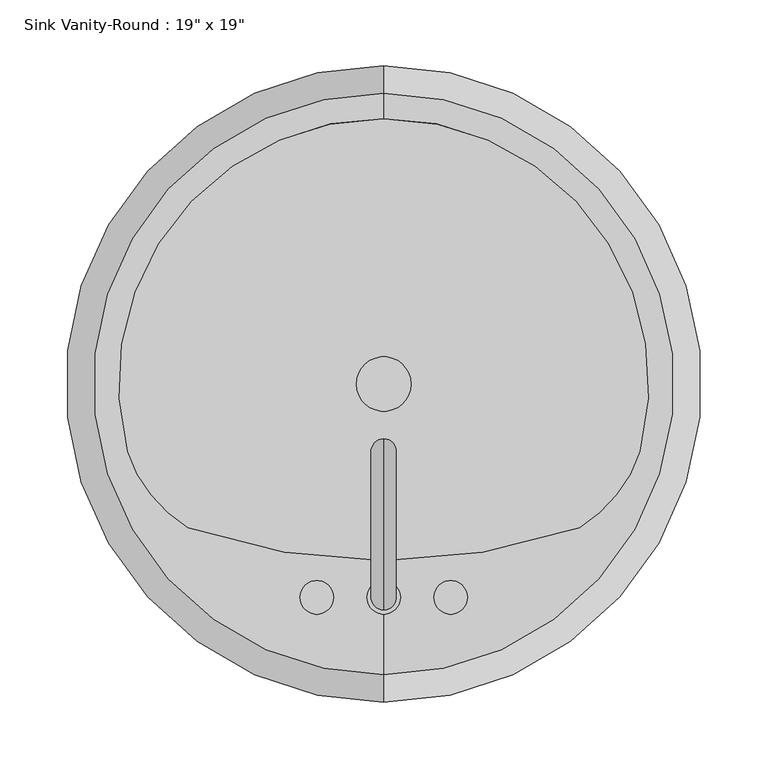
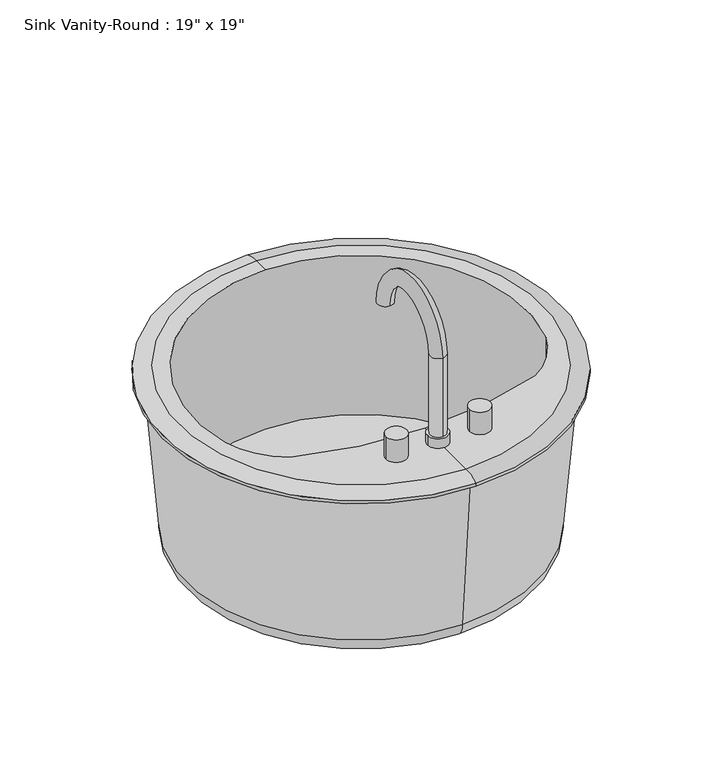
"""IFC4 building model written with IfcOpenShell, lengths in millimetres: flow terminal geometry."""

from ifc_helpers import new_model, si_unit, point, frame, frame_2d, origin, place, context, project, spatial, polyline, circle_curve, ellipse_curve, trimmed, segment, composite_curve, outline, extrude, source, transform, mapped, element, save
from ifc_brep_helpers import plane_surface, cylinder_surface, revolved_surface, advanced_brep


def flow_terminal_6ae34ecf(model_context):
    return source(origin(), model_context, "Body", "SolidModel", [
        advanced_brep(
        [(96.6517406, -237.5677185, 796.925), (96.6517406, -256.6177185, 796.925), (96.6517406, -256.6177185, 909.6375), (96.6517406, -237.5677185, 909.6375), (96.6517406, -145.7775038, 909.6375), (96.6517406, -126.7275038, 909.6375)],
        [
            (0, 1, circle_curve(frame((96.6517406, -247.0927185, 796.925), z_axis=(0.0, 0.0, -1.0), x_axis=(0.0, -1.0, 0.0)), 9.525)),
            (1, 0, circle_curve(frame((96.6517406, -247.0927185, 796.925), z_axis=(0.0, 0.0, -1.0), x_axis=(0.0, -1.0, 0.0)), 9.525)),
            (1, 2),
            (2, 3, circle_curve(frame((96.6517406, -247.0927185, 909.6375), z_axis=(0.0, 0.0, -1.0), x_axis=(0.0, -1.0, 0.0)), 9.525)),
            (3, 0),
            (3, 2, circle_curve(frame((96.6517406, -247.0927185, 909.6375), z_axis=(0.0, 0.0, -1.0), x_axis=(0.0, -1.0, 0.0)), 9.525)),
            (4, 5, circle_curve(frame((96.6517406, -136.2525038, 909.6375), z_axis=(0.0, 0.0, -1.0), x_axis=(0.0, 1.0, 0.0)), 9.525)),
            (5, 4, circle_curve(frame((96.6517406, -136.2525038, 909.6375), z_axis=(0.0, 0.0, -1.0), x_axis=(0.0, 1.0, 0.0)), 9.525)),
            (4, 3, circle_curve(frame((96.6517406, -191.6726112, 909.6375), z_axis=(1.0, 0.0, 0.0), x_axis=(0.0, -1.0, 0.0)), 45.8951073)),
            (2, 5, circle_curve(frame((96.6517406, -191.6726112, 909.6375), z_axis=(-1.0, 0.0, 0.0), x_axis=(0.0, -1.0, 0.0)), 64.9451073)),
        ],
        [
            plane_surface(frame((96.6517406, -237.5677185, 796.925), z_axis=(0.0, 0.0, -1.0), x_axis=(1.0, 0.0, 0.0))),
            cylinder_surface(frame((96.6517406, -247.0927185, 796.925), z_axis=(0.0, 0.0, -1.0), x_axis=(0.0, -1.0, 0.0)), 9.525),
            plane_surface(frame((96.6517406, -191.6726112, 909.6375), z_axis=(0.0, 0.0, -1.0), x_axis=(0.0, 1.0, 0.0))),
            revolved_surface(trimmed(ellipse_curve(frame((96.6517406, -247.0927185, 909.6375), z_axis=(0.0, 0.0, 1.0), x_axis=(0.0, -1.0, 0.0)), 9.525, 9.525), [point((96.6517406, -237.5677185, 909.6375))], [point((96.6517406, -256.6177185, 909.6375))], True, "CARTESIAN"), (96.6517406, -191.6726112, 909.6375), (1.0, 0.0, 0.0)),
            revolved_surface(trimmed(ellipse_curve(frame((96.6517406, -247.0927185, 909.6375), z_axis=(0.0, 0.0, 1.0), x_axis=(0.0, -1.0, 0.0)), 9.525, 9.525), [point((96.6517406, -256.6177185, 909.6375))], [point((96.6517406, -237.5677185, 909.6375))], True, "CARTESIAN"), (96.6517406, -191.6726112, 909.6375), (1.0, 0.0, 0.0)),
        ],
        [
            (0, [[1, 2]]),
            (1, [[3, 4, 5, -2]]),
            (1, [[-5, 6, -3, -1]]),
            (2, [[7, 8]]),
            (3, [[-7, 9, -4, 10]]),
            (4, [[-8, -10, -6, -9]]),
        ],
    ),
        extrude(outline(composite_curve([segment(trimmed(circle_curve(frame_2d((96.6517406, -247.0927185)), 12.7), [point((83.9517406, -247.0927185))], [point((109.3517406, -247.0927185))], False, "CARTESIAN"), True, "CONTINUOUS"), segment(trimmed(circle_curve(frame_2d((96.6517406, -247.0927185)), 12.7), [point((109.3517406, -247.0927185))], [point((83.9517406, -247.0927185))], False, "CARTESIAN"), True, "CONTINUOUS")], self_intersect=False)), frame((0.0, 0.0, 796.925), z_axis=(0.0, 0.0, 1.0), x_axis=(1.0, 0.0, 0.0)), (0.0, 0.0, 1.0), 12.2352909),
        extrude(outline(composite_curve([segment(trimmed(circle_curve(frame_2d((45.8517406, -247.0927185)), 12.7), [point((33.1517406, -247.0927185))], [point((58.5517406, -247.0927185))], False, "CARTESIAN"), True, "CONTINUOUS"), segment(trimmed(circle_curve(frame_2d((45.8517406, -247.0927185)), 12.7), [point((58.5517406, -247.0927185))], [point((33.1517406, -247.0927185))], False, "CARTESIAN"), True, "CONTINUOUS")], self_intersect=False)), frame((0.0, 0.0, 796.925), z_axis=(0.0, 0.0, 1.0), x_axis=(1.0, 0.0, 0.0)), (0.0, 0.0, 1.0), 28.575),
        extrude(outline(composite_curve([segment(trimmed(circle_curve(frame_2d((147.4517406, -247.0927185)), 12.7), [point((134.7517406, -247.0927185))], [point((160.1517406, -247.0927185))], False, "CARTESIAN"), True, "CONTINUOUS"), segment(trimmed(circle_curve(frame_2d((147.4517406, -247.0927185)), 12.7), [point((160.1517406, -247.0927185))], [point((134.7517406, -247.0927185))], False, "CARTESIAN"), True, "CONTINUOUS")], self_intersect=False)), frame((0.0, 0.0, 796.925), z_axis=(0.0, 0.0, 1.0), x_axis=(1.0, 0.0, 0.0)), (0.0, 0.0, 1.0), 28.575),
        extrude(outline(composite_curve([segment(trimmed(circle_curve(frame_2d((96.6517406, -85.1677185)), 20.6375), [point((76.0142406, -85.1677185))], [point((117.2892406, -85.1677185))], False, "CARTESIAN"), True, "CONTINUOUS"), segment(trimmed(circle_curve(frame_2d((96.6517406, -85.1677185)), 20.6375), [point((117.2892406, -85.1677185))], [point((76.0142406, -85.1677185))], False, "CARTESIAN"), True, "CONTINUOUS")], self_intersect=False)), frame((0.0, 0.0, 571.5), z_axis=(0.0, 0.0, 1.0), x_axis=(1.0, 0.0, 0.0)), (0.0, 0.0, 1.0), 21.1842611),
        advanced_brep(
        [(96.6517406, 135.3870093, 796.925), (96.6517406, 156.1322815, 791.36875), (96.6517406, -326.4677185, 791.36875), (96.6517406, -305.7224463, 796.925), (96.6517406, -219.2662048, 796.925), (-52.1534933, -194.0861398, 796.925), (-98.1703414, -136.2525038, 796.925), (96.6517406, 116.2405705, 796.925), (291.4738225, -136.2525038, 796.925), (245.4569744, -194.0861398, 796.925), (96.6517406, 107.1264028, 571.5), (96.6517406, -85.1677185, 571.5), (96.6517406, -277.4618398, 571.5), (96.6517406, -298.0181731, 592.6842611), (96.6517406, 127.6827361, 592.6842611), (96.6517406, -314.5614685, 787.4), (96.6517406, 144.2260315, 787.4), (96.6517406, -326.4677185, 787.4), (96.6517406, 156.1322815, 787.4), (245.4569744, -194.0861398, 592.6842611), (291.4738225, -136.2525038, 592.6842611), (-98.1703414, -136.2525038, 592.6842611), (-52.1534933, -194.0861398, 592.6842611)],
        [
            (0, 1, circle_curve(frame((96.6517406, 139.1020246, 769.289434), z_axis=(-1.0, 0.0, 0.0), x_axis=(0.0, 1.0, 0.0)), 27.8841505)),
            (1, 2, circle_curve(frame((96.6517406, -85.1677185, 791.36875), z_axis=(0.0, 0.0, 1.0), x_axis=(0.0, -1.0, 0.0)), 241.3)),
            (2, 3, circle_curve(frame((96.6517406, -309.4374616, 769.289434), z_axis=(-1.0, 0.0, 0.0), x_axis=(0.0, -1.0, 0.0)), 27.8841505)),
            (3, 0, circle_curve(frame((96.6517406, -85.1677185, 796.925), z_axis=(0.0, 0.0, -1.0), x_axis=(0.0, -1.0, 0.0)), 220.5547278)),
            (2, 1, circle_curve(frame((96.6517406, -85.1677185, 791.36875), z_axis=(0.0, 0.0, 1.0), x_axis=(0.0, -1.0, 0.0)), 241.3)),
            (0, 3, circle_curve(frame((96.6517406, -85.1677185, 796.925), z_axis=(0.0, 0.0, -1.0), x_axis=(0.0, -1.0, 0.0)), 220.5547278)),
            (3, 4),
            (4, 5, circle_curve(frame((96.6517406, 233.0168462, 796.925), z_axis=(0.0, 0.0, -1.0), x_axis=(1.0, 0.0, 0.0)), 452.283051)),
            (5, 6, circle_curve(frame((1.3689689, -104.2755165, 796.925), z_axis=(0.0, 0.0, -1.0), x_axis=(1.0, 0.0, 0.0)), 104.5495194)),
            (6, 7, circle_curve(frame((96.6517406, -85.1677185, 796.925), z_axis=(0.0, 0.0, -1.0), x_axis=(1.0, 0.0, 0.0)), 201.408289)),
            (7, 0),
            (7, 8, circle_curve(frame((96.6517406, -85.1677185, 796.925), z_axis=(0.0, 0.0, -1.0), x_axis=(1.0, 0.0, 0.0)), 201.408289)),
            (8, 9, circle_curve(frame((191.9345122, -104.2755165, 796.925), z_axis=(0.0, 0.0, -1.0), x_axis=(1.0, 0.0, 0.0)), 104.5495194)),
            (9, 4, circle_curve(frame((96.6517406, 233.0168462, 796.925), z_axis=(0.0, 0.0, -1.0), x_axis=(1.0, 0.0, 0.0)), 452.283051)),
            (10, 11),
            (11, 12),
            (12, 10, circle_curve(frame((96.6517406, -85.1677185, 571.5), z_axis=(0.0, 0.0, -1.0), x_axis=(0.0, -1.0, 0.0)), 192.2941213)),
            (10, 12, circle_curve(frame((96.6517406, -85.1677185, 571.5), z_axis=(0.0, 0.0, -1.0), x_axis=(0.0, -1.0, 0.0)), 192.2941213)),
            (12, 13, circle_curve(frame((96.6517406, -277.4618398, 592.0656396), z_axis=(-1.0, 0.0, 0.0), x_axis=(0.0, -1.0, 0.0)), 20.5656396)),
            (13, 14, circle_curve(frame((96.6517406, -85.1677185, 592.6842611), z_axis=(0.0, 0.0, -1.0), x_axis=(0.0, -1.0, 0.0)), 212.8504546)),
            (14, 10, circle_curve(frame((96.6517406, 107.1264028, 592.0656396), z_axis=(-1.0, 0.0, 0.0), x_axis=(0.0, 1.0, 0.0)), 20.5656396)),
            (14, 13, circle_curve(frame((96.6517406, -85.1677185, 592.6842611), z_axis=(0.0, 0.0, -1.0), x_axis=(0.0, -1.0, 0.0)), 212.8504546)),
            (13, 15),
            (15, 16, circle_curve(frame((96.6517406, -85.1677185, 787.4), z_axis=(0.0, 0.0, -1.0), x_axis=(0.0, -1.0, 0.0)), 229.39375)),
            (16, 14),
            (16, 15, circle_curve(frame((96.6517406, -85.1677185, 787.4), z_axis=(0.0, 0.0, -1.0), x_axis=(0.0, -1.0, 0.0)), 229.39375)),
            (15, 17),
            (17, 18, circle_curve(frame((96.6517406, -85.1677185, 787.4), z_axis=(0.0, 0.0, -1.0), x_axis=(0.0, -1.0, 0.0)), 241.3)),
            (18, 16),
            (18, 17, circle_curve(frame((96.6517406, -85.1677185, 787.4), z_axis=(0.0, 0.0, -1.0), x_axis=(0.0, -1.0, 0.0)), 241.3)),
            (1, 18),
            (17, 2),
            (19, 20, circle_curve(frame((191.9345122, -104.2755165, 592.6842611), z_axis=(0.0, 0.0, 1.0), x_axis=(1.0, 0.0, 0.0)), 104.5495194)),
            (20, 21, circle_curve(frame((96.6517406, -85.1677185, 592.6842611), z_axis=(0.0, 0.0, 1.0), x_axis=(1.0, 0.0, 0.0)), 201.408289)),
            (21, 22, circle_curve(frame((1.3689689, -104.2755165, 592.6842611), z_axis=(0.0, 0.0, 1.0), x_axis=(1.0, 0.0, 0.0)), 104.5495194)),
            (22, 19, circle_curve(frame((96.6517406, 233.0168462, 592.6842611), z_axis=(0.0, 0.0, 1.0), x_axis=(1.0, 0.0, 0.0)), 452.283051)),
            (22, 5),
            (9, 19),
            (21, 6),
            (20, 8),
        ],
        [
            revolved_surface(trimmed(ellipse_curve(frame((96.6517406, -309.4374616, 769.289434), z_axis=(-1.0, 0.0, 0.0), x_axis=(0.0, -1.0, 0.0)), 27.8841505, 27.8841505), [point((96.6517406, -326.4677185, 791.36875))], [point((96.6517406, -305.7224463, 796.925))], True, "CARTESIAN"), (96.6517406, -85.1677185, 796.925), (0.0, 0.0, 1.0)),
            plane_surface(frame((96.6517406, -85.1677185, 796.925), z_axis=(0.0, 0.0, 1.0), x_axis=(0.0, -1.0, 0.0))),
            plane_surface(frame((96.6517406, -85.1677185, 571.5), z_axis=(0.0, 0.0, -1.0), x_axis=(0.0, -1.0, 0.0))),
            revolved_surface(trimmed(ellipse_curve(frame((96.6517406, -277.4618398, 592.0656396), z_axis=(-1.0, 0.0, 0.0), x_axis=(0.0, -1.0, 0.0)), 20.5656396, 20.5656396), [point((96.6517406, -277.4618398, 571.5))], [point((96.6517406, -298.0181731, 592.6842611))], True, "CARTESIAN"), (96.6517406, -85.1677185, 796.925), (0.0, 0.0, 1.0)),
            revolved_surface(polyline([(96.6517406, -298.0181731, 592.6842611), (96.6517406, -314.5614685, 787.4)]), (96.6517406, -85.1677185, 796.925), (0.0, 0.0, 1.0)),
            plane_surface(frame((96.6517406, -85.1677185, 787.4), z_axis=(0.0, 0.0, -1.0), x_axis=(0.0, -1.0, 0.0))),
            cylinder_surface(frame((96.6517406, -85.1677185, 796.925), z_axis=(0.0, 0.0, 1.0), x_axis=(0.0, -1.0, 0.0)), 241.3),
            plane_surface(frame((548.9347916, 233.0168462, 592.6842611), z_axis=(0.0, 0.0, 1.0), x_axis=(0.0, 1.0, 0.0))),
            revolved_surface(polyline([(548.9347916, 233.0168462, 796.925), (548.9347916, 233.0168462, 592.6842611)]), (96.6517406, 233.0168462, 592.6842611), (0.0, 0.0, 1.0)),
            revolved_surface(polyline([(105.91848829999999, -104.2755165, 796.925), (105.91848829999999, -104.2755165, 592.6842611)]), (1.3689689, -104.2755165, 592.6842611), (0.0, 0.0, 1.0)),
            revolved_surface(polyline([(298.0600296, -85.1677185, 796.925), (298.0600296, -85.1677185, 592.6842611)]), (96.6517406, -85.1677185, 592.6842611), (0.0, 0.0, 1.0)),
            revolved_surface(polyline([(296.4840316, -104.2755165, 796.925), (296.4840316, -104.2755165, 592.6842611)]), (191.9345122, -104.2755165, 592.6842611), (0.0, 0.0, 1.0)),
        ],
        [
            (0, [[1, 2, 3, 4]]),
            (0, [[5, -1, 6, -3]]),
            (1, [[7, 8, 9, 10, 11, -4]]),
            (1, [[-11, 12, 13, 14, -7, -6]]),
            (2, [[15, 16, 17]]),
            (2, [[-15, 18, -16]]),
            (3, [[19, 20, 21, -17]]),
            (3, [[-21, 22, -19, -18]]),
            (4, [[23, 24, 25, -20]]),
            (4, [[-25, 26, -23, -22]]),
            (5, [[27, 28, 29, -24]]),
            (5, [[-29, 30, -27, -26]]),
            (6, [[31, -28, 32, -2]]),
            (6, [[-32, -30, -31, -5]]),
            (7, [[33, 34, 35, 36]]),
            (8, [[37, -8, -14, 38, -36]]),
            (9, [[39, -9, -37, -35]]),
            (10, [[40, -12, -10, -39, -34]]),
            (11, [[-38, -13, -40, -33]]),
        ],
    ),
    ])


if __name__ == "__main__":
    model = new_model("IFC4")
    model_context = context("Model", 3, world=origin())
    ifc_project = project(units=[si_unit("LENGTHUNIT", "METRE", prefix="MILLI")], contexts=[model_context])
    site = spatial("IfcSite", under=ifc_project)
    building = spatial("IfcBuilding", under=site)
    placement = place(None, origin())
    flow_terminal_shape = flow_terminal_6ae34ecf(model_context)
    element("IfcFlowTerminal", 1, ObjectType="Sink Vanity-Round : 19\" x 19\"", at=placement, inside=building, context=model_context, shape_type="MappedRepresentation", body=[
        mapped(flow_terminal_shape, transform((0.0, 0.0, 0.0), x_axis=(1.0, 0.0, 0.0), y_axis=(0.0, 1.0, 0.0), z_axis=(0.0, 0.0, 1.0))),
    ])
    save(model, "model.ifc")
